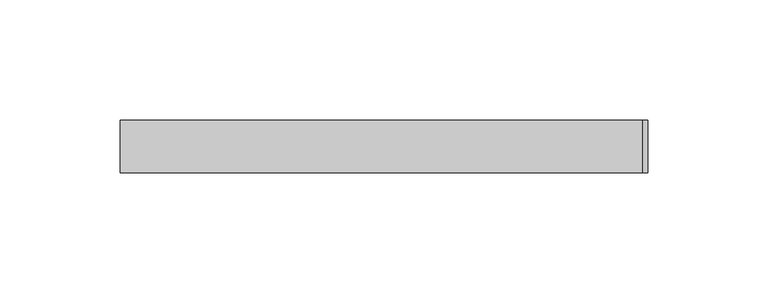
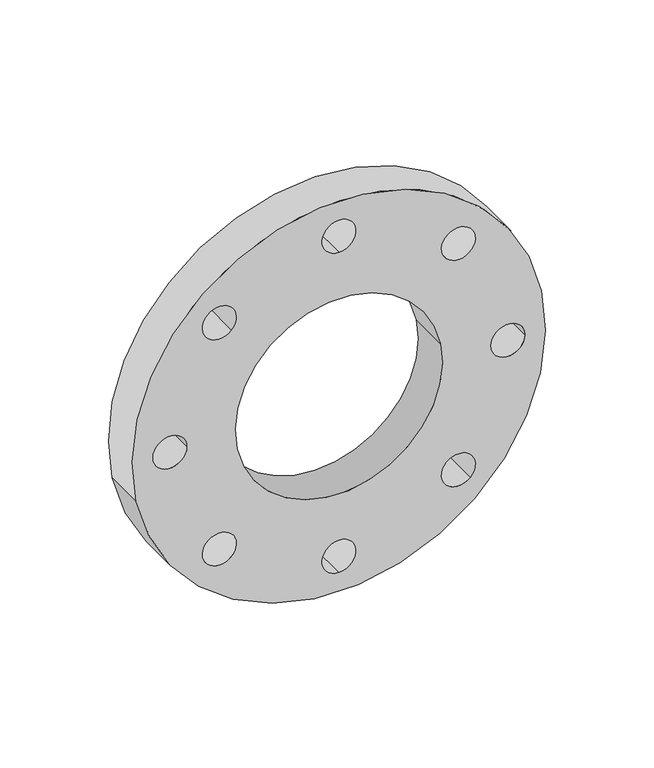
"""IFC4 building model written with IfcOpenShell, lengths in millimetres: pipe fitting geometry, 01051019 : Bridas."""

from ifc_helpers import new_model, si_unit, point, frame, frame_2d, origin, origin_2d, place, context, project, spatial, circle_curve, trimmed, segment, composite_curve, outline, extrude, source, transform, mapped, element, save


def pipe_fitting_cc5da2c5(model_context):
    return source(origin(), model_context, "Body", "SweptSolid", [
        extrude(outline(composite_curve([segment(trimmed(circle_curve(origin_2d(), 110.0), [point((-21.4599354, -107.8863808))], [point((21.4599354, 107.8863808))], False, "CARTESIAN"), True, "CONTINUOUS"), segment(trimmed(circle_curve(origin_2d(), 110.0), [point((21.4599354, 107.8863808))], [point((-21.4599354, -107.8863808))], False, "CARTESIAN"), True, "CONTINUOUS")], self_intersect=False), holes=[composite_curve([segment(trimmed(circle_curve(origin_2d(), 55.0), [point((-10.7299677, -53.9431904))], [point((10.7299677, 53.9431904))], True, "CARTESIAN"), True, "CONTINUOUS"), segment(trimmed(circle_curve(origin_2d(), 55.0), [point((10.7299677, 53.9431904))], [point((-10.7299677, -53.9431904))], True, "CARTESIAN"), True, "CONTINUOUS")], self_intersect=False), composite_curve([segment(trimmed(circle_curve(frame_2d((0.0, -90.0)), 9.0), [point((0.0, -81.0))], [point((0.0, -99.0))], True, "CARTESIAN"), True, "CONTINUOUS"), segment(trimmed(circle_curve(frame_2d((0.0, -90.0)), 9.0), [point((0.0, -99.0))], [point((0.0, -81.0))], True, "CARTESIAN"), True, "CONTINUOUS")], self_intersect=False), composite_curve([segment(trimmed(circle_curve(frame_2d((63.6396103, -63.6396103)), 9.0), [point((57.2756493, -57.2756493))], [point((70.0035713, -70.0035713))], True, "CARTESIAN"), True, "CONTINUOUS"), segment(trimmed(circle_curve(frame_2d((63.6396103, -63.6396103)), 9.0), [point((70.0035713, -70.0035713))], [point((57.2756493, -57.2756493))], True, "CARTESIAN"), True, "CONTINUOUS")], self_intersect=False), composite_curve([segment(trimmed(circle_curve(frame_2d((-63.6396103, -63.6396103)), 9.0), [point((-57.2756493, -57.2756493))], [point((-70.0035713, -70.0035713))], True, "CARTESIAN"), True, "CONTINUOUS"), segment(trimmed(circle_curve(frame_2d((-63.6396103, -63.6396103)), 9.0), [point((-70.0035713, -70.0035713))], [point((-57.2756493, -57.2756493))], True, "CARTESIAN"), True, "CONTINUOUS")], self_intersect=False), composite_curve([segment(trimmed(circle_curve(frame_2d((-90.0, 0.0)), 9.0), [point((-81.0, 0.0))], [point((-99.0, 0.0))], True, "CARTESIAN"), True, "CONTINUOUS"), segment(trimmed(circle_curve(frame_2d((-90.0, 0.0)), 9.0), [point((-99.0, 0.0))], [point((-81.0, 0.0))], True, "CARTESIAN"), True, "CONTINUOUS")], self_intersect=False), composite_curve([segment(trimmed(circle_curve(frame_2d((-63.6396103, 63.6396103)), 9.0), [point((-57.2756493, 57.2756493))], [point((-70.0035713, 70.0035713))], True, "CARTESIAN"), True, "CONTINUOUS"), segment(trimmed(circle_curve(frame_2d((-63.6396103, 63.6396103)), 9.0), [point((-70.0035713, 70.0035713))], [point((-57.2756493, 57.2756493))], True, "CARTESIAN"), True, "CONTINUOUS")], self_intersect=False), composite_curve([segment(trimmed(circle_curve(frame_2d((0.0, 90.0)), 9.0), [point((0.0, 81.0))], [point((0.0, 99.0))], True, "CARTESIAN"), True, "CONTINUOUS"), segment(trimmed(circle_curve(frame_2d((0.0, 90.0)), 9.0), [point((0.0, 99.0))], [point((0.0, 81.0))], True, "CARTESIAN"), True, "CONTINUOUS")], self_intersect=False), composite_curve([segment(trimmed(circle_curve(frame_2d((63.6396103, 63.6396103)), 9.0), [point((57.2756493, 57.2756493))], [point((70.0035713, 70.0035713))], True, "CARTESIAN"), True, "CONTINUOUS"), segment(trimmed(circle_curve(frame_2d((63.6396103, 63.6396103)), 9.0), [point((70.0035713, 70.0035713))], [point((57.2756493, 57.2756493))], True, "CARTESIAN"), True, "CONTINUOUS")], self_intersect=False), composite_curve([segment(trimmed(circle_curve(frame_2d((90.0, 0.0)), 9.0), [point((81.0, 0.0))], [point((99.0, 0.0))], True, "CARTESIAN"), True, "CONTINUOUS"), segment(trimmed(circle_curve(frame_2d((90.0, 0.0)), 9.0), [point((99.0, 0.0))], [point((81.0, 0.0))], True, "CARTESIAN"), True, "CONTINUOUS")], self_intersect=False)]), frame((0.0, -11.0, 0.0), z_axis=(0.0, 1.0, 0.0), x_axis=(0.0, 0.0, 1.0)), (0.0, 0.0, 1.0), 22.0),
    ])


if __name__ == "__main__":
    model = new_model("IFC4")
    model_context = context("Model", 3, world=origin())
    ifc_project = project(units=[si_unit("LENGTHUNIT", "METRE", prefix="MILLI")], contexts=[model_context])
    site = spatial("IfcSite", under=ifc_project)
    building = spatial("IfcBuilding", under=site)
    placement = place(None, origin())
    pipe_fitting_shape = pipe_fitting_cc5da2c5(model_context)
    element("IfcPipeFitting", 1, ObjectType="01051019 : Bridas", at=placement, inside=building, context=model_context, shape_type="MappedRepresentation", body=[
        mapped(pipe_fitting_shape, transform((0.0, 0.0, 0.0), x_axis=(1.0, 0.0, 0.0), y_axis=(0.0, 1.0, 0.0), z_axis=(0.0, 0.0, 1.0))),
    ])
    save(model, "model.ifc")
